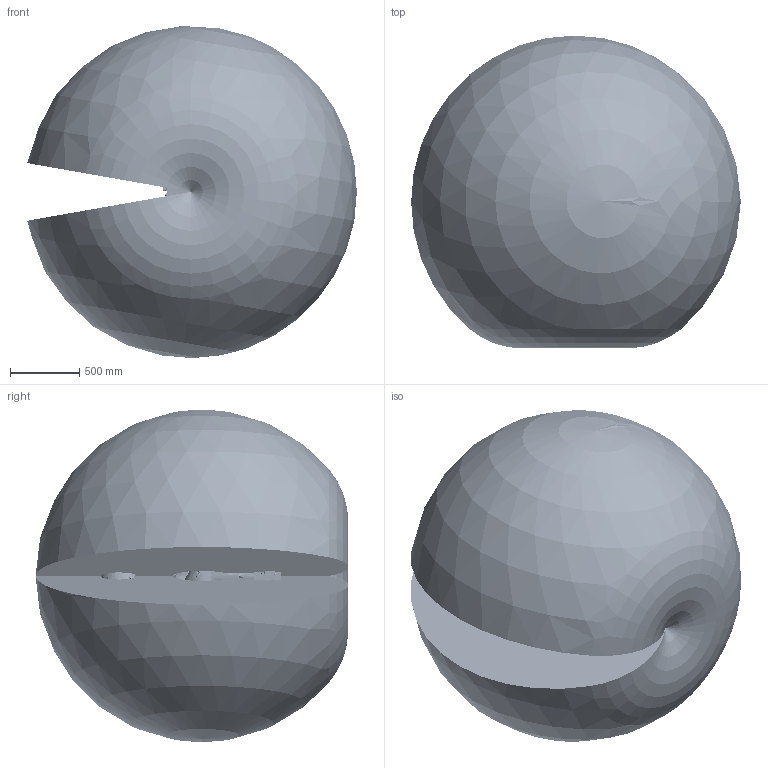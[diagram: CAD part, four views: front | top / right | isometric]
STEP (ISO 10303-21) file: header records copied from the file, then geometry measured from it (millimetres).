
FILE_DESCRIPTION (( 'STEP AP214' ), '1' );
FILE_NAME ('ER20-1200-MI Íâ²¿Ä£ÐÍ.STEP', '2023-02-24T09:10:40', ( '' ), ( '' ), 'SwSTEP 2.0', 'SolidWorks 2018', '' );
FILE_SCHEMA (( 'AUTOMOTIVE_DESIGN' ));
Length unit declared in the file: millimetre
Products named in the file (9): ER20-1200-MI-8; ER20-1200-MI-4; ER20-1200-MI-6; ER20-1200-MI 俋窒耀倰; ER20-1200-MI-2; ER20-1200-MI-01; ER20-1200-MI-3; ER20-1200-MI-7-0; ER15-1430-MI-05
Assembly tree (8 placements, depth 2):
  ER20-1200-MI 俋窒耀倰
    ER20-1200-MI-01
    ER20-1200-MI-2
    ER20-1200-MI-3
    ER20-1200-MI-4
    ER15-1430-MI-05
    ER20-1200-MI-6
    ER20-1200-MI-7-0
    ER20-1200-MI-8
Bounding box: 2381.77 x 2259.63 x 2398.51 mm (x, y, z)
Volume: 6797314620.3 mm3; surface area: 25343191.7 mm2
Topology: 230 solids, 242 shells, 7891 faces, 18680 edges, 11519 vertices
Faces by surface type: plane 2659, cylinder 2349, bspline 1158, torus 898, cone 792, sphere 35
Entity records: 384440 total; most frequent: CARTESIAN_POINT 119405, ORIENTED_EDGE 37020, DIRECTION 35770, EDGE_CURVE 18510, AXIS2_PLACEMENT_3D 14079, VERTEX_POINT 11514, EDGE_LOOP 8786, UNCERTAINTY_MEASURE_WITH_UNIT 8130
